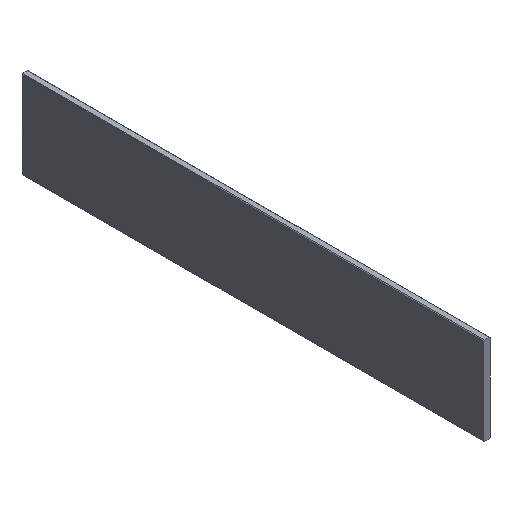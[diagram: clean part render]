
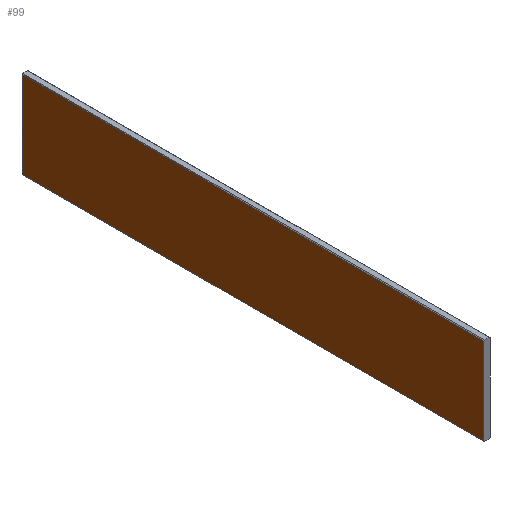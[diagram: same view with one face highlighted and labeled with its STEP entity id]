
A CAD part, isometric view. The second image highlights one B-rep face of the part: STEP entity #99.
In plain terms, the highlighted planar face has unit normal (-1, 0, 0).
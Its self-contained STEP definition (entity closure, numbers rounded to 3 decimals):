
#99=ADVANCED_FACE('',(#235),#236,.T.);
#235=FACE_OUTER_BOUND('',#405,.T.);
#236=PLANE('',#406);
#405=EDGE_LOOP('',(#653,#654,#655,#656));
#406=AXIS2_PLACEMENT_3D('',#657,#658,#659);
#653=ORIENTED_EDGE('',*,*,#1068,.F.);
#654=ORIENTED_EDGE('',*,*,#1011,.T.);
#655=ORIENTED_EDGE('',*,*,#1071,.F.);
#656=ORIENTED_EDGE('',*,*,#1060,.F.);
#657=CARTESIAN_POINT('',(-3.,458.0,0.));
#658=DIRECTION('',(-1.0,0.,0.0));
#659=DIRECTION('',(0.,-1.0,0.0));
#1011=EDGE_CURVE('',#1202,#1200,#1203,.T.);
#1060=EDGE_CURVE('',#1291,#1293,#1294,.T.);
#1068=EDGE_CURVE('',#1202,#1291,#1305,.T.);
#1071=EDGE_CURVE('',#1293,#1200,#1308,.T.);
#1200=VERTEX_POINT('',#1477);
#1202=VERTEX_POINT('',#1480);
#1203=LINE('',#1481,#1482);
#1291=VERTEX_POINT('',#1592);
#1293=VERTEX_POINT('',#1595);
#1294=LINE('',#1596,#1597);
#1305=LINE('',#1613,#1614);
#1308=LINE('',#1618,#1619);
#1477=CARTESIAN_POINT('',(-3.,0.,86.4));
#1480=CARTESIAN_POINT('',(-3.,0.,0.6));
#1481=CARTESIAN_POINT('',(-3.,0.,0.0));
#1482=VECTOR('',#1833,10.0);
#1592=CARTESIAN_POINT('',(-3.,458.0,0.6));
#1595=CARTESIAN_POINT('',(-3.,458.0,86.4));
#1596=CARTESIAN_POINT('',(-3.,458.0,0.));
#1597=VECTOR('',#1917,10.0);
#1613=CARTESIAN_POINT('',(-3.,343.5,0.6));
#1614=VECTOR('',#1923,10.0);
#1618=CARTESIAN_POINT('',(-3.,343.5,86.4));
#1619=VECTOR('',#1925,10.0);
#1833=DIRECTION('',(0.0,0.0,1.0));
#1917=DIRECTION('',(0.0,0.0,1.0));
#1923=DIRECTION('',(0.,1.0,0.0));
#1925=DIRECTION('',(0.,-1.0,0.0));
